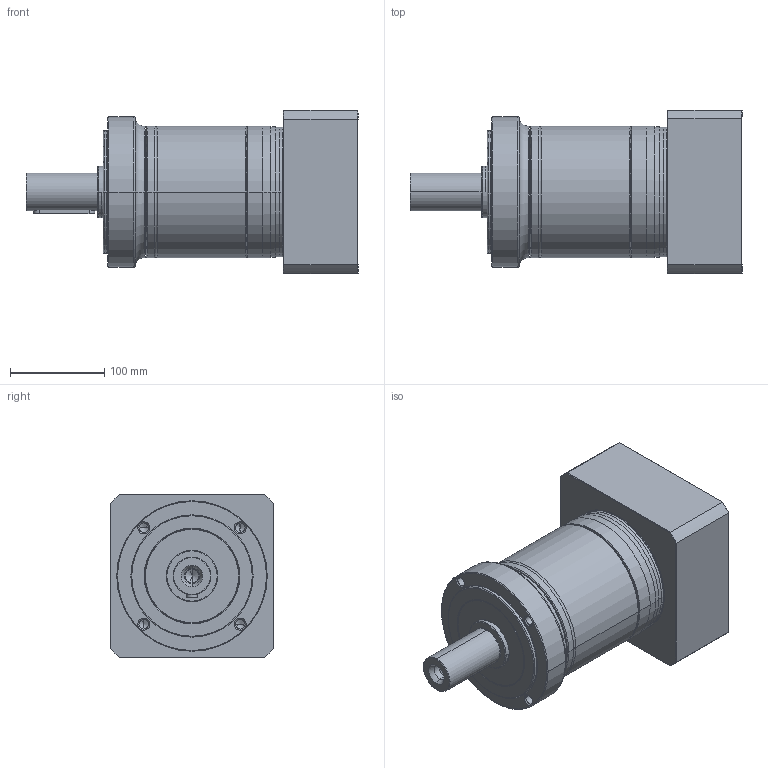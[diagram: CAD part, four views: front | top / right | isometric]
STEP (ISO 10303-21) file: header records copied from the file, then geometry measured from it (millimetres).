
FILE_DESCRIPTION((''),'2;1');
FILE_NAME('PG2-160_2ST_38-P0411900101_ASM','2016-04-13T',('d01943'),(''),'PRO/ENGINEER BY PARAMETRIC TECHNOLOGY CORPORATION, 2008410','PRO/ENGINEER BY PARAMETRIC TECHNOLOGY CORPORATION, 2008410','');
FILE_SCHEMA(('CONFIG_CONTROL_DESIGN'));
Length unit declared in the file: millimetre
Products named in the file (9): P1325510001; P0251500001; P1324500501; P0350501103; P0941505001; P0503900010; P0411900101; P1702600001; PG2-160_2ST_38-P0411900101_ASM
Assembly tree (8 placements, depth 2):
  PG2-160_2ST_38-P0411900101_ASM
    P1325510001
    P0251500001
    P1324500501
    P0350501103
    P0941505001
    P0503900010
    P0411900101
    P1702600001
Bounding box: 353 x 174 x 174 mm (x, y, z)
Volume: 3997631 mm3; surface area: 460607.2 mm2
Topology: 8 solids, 9 shells, 489 faces, 1074 edges, 615 vertices
Faces by surface type: cone 146, cylinder 146, torus 100, plane 79, bspline 18
Entity records: 18041 total; most frequent: CARTESIAN_POINT 7069, DIRECTION 2504, ORIENTED_EDGE 2080, AXIS2_PLACEMENT_3D 1074, EDGE_CURVE 1040, VERTEX_POINT 615, CIRCLE 586, EDGE_LOOP 553
